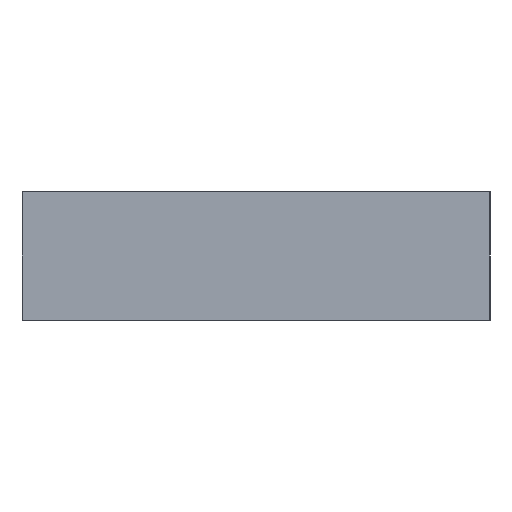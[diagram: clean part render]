
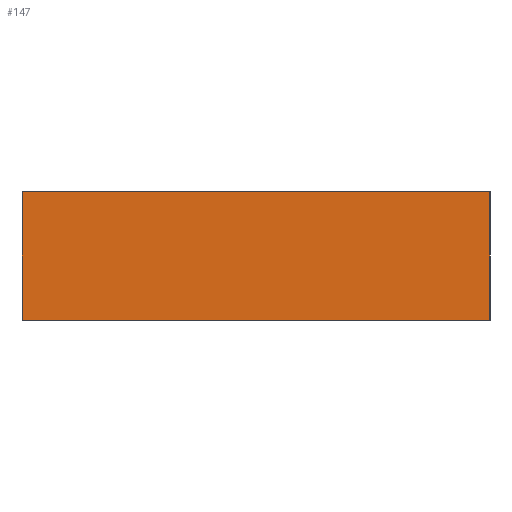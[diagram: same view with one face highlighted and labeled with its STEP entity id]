
A CAD part, left-side view. The second image highlights one B-rep face of the part: STEP entity #147.
In plain terms, the highlighted planar face has unit normal (-1, 0, 0).
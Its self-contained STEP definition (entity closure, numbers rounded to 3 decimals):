
#101 = VERTEX_POINT( '', #271 );
#129 = EDGE_CURVE( '', #101, #145, #302, .T. );
#145 = VERTEX_POINT( '', #319 );
#147 = ADVANCED_FACE( '', ( #321 ), #322, .T. );
#161 = VERTEX_POINT( '', #339 );
#179 = EDGE_CURVE( '', #145, #197, #360, .T. );
#197 = VERTEX_POINT( '', #379 );
#217 = EDGE_CURVE( '', #161, #197, #400, .T. );
#237 = EDGE_CURVE( '', #101, #161, #424, .T. );
#271 = CARTESIAN_POINT( '', ( -5., 0., 4.8 ) );
#302 = LINE( '', #491, #492 );
#319 = CARTESIAN_POINT( '', ( -5., 0., -4.8 ) );
#321 = FACE_OUTER_BOUND( '', #517, .T. );
#322 = PLANE( '', #518 );
#339 = CARTESIAN_POINT( '', ( -5., -35., 4.8 ) );
#360 = LINE( '', #565, #566 );
#379 = CARTESIAN_POINT( '', ( -5., -35., -4.8 ) );
#400 = LINE( '', #623, #624 );
#424 = LINE( '', #656, #657 );
#491 = CARTESIAN_POINT( '', ( -5., 0., 4.8 ) );
#492 = VECTOR( '', #711, 1. );
#517 = EDGE_LOOP( '', ( #729, #730, #731, #732 ) );
#518 = AXIS2_PLACEMENT_3D( '', #733, #734, #735 );
#565 = CARTESIAN_POINT( '', ( -5., 0., -4.8 ) );
#566 = VECTOR( '', #786, 1. );
#623 = CARTESIAN_POINT( '', ( -5., -35., 4.8 ) );
#624 = VECTOR( '', #815, 1. );
#656 = CARTESIAN_POINT( '', ( -5., 0., 4.8 ) );
#657 = VECTOR( '', #855, 1. );
#711 = DIRECTION( '', ( 0., 0., -1. ) );
#729 = ORIENTED_EDGE( '', *, *, #179, .T. );
#730 = ORIENTED_EDGE( '', *, *, #217, .F. );
#731 = ORIENTED_EDGE( '', *, *, #237, .F. );
#732 = ORIENTED_EDGE( '', *, *, #129, .T. );
#733 = CARTESIAN_POINT( '', ( -5., 0., 4.8 ) );
#734 = DIRECTION( '', ( -1., 0., 0. ) );
#735 = DIRECTION( '', ( 0., 1., 0. ) );
#786 = DIRECTION( '', ( 0., -1., 0. ) );
#815 = DIRECTION( '', ( 0., 0., -1. ) );
#855 = DIRECTION( '', ( 0., -1., 0. ) );
